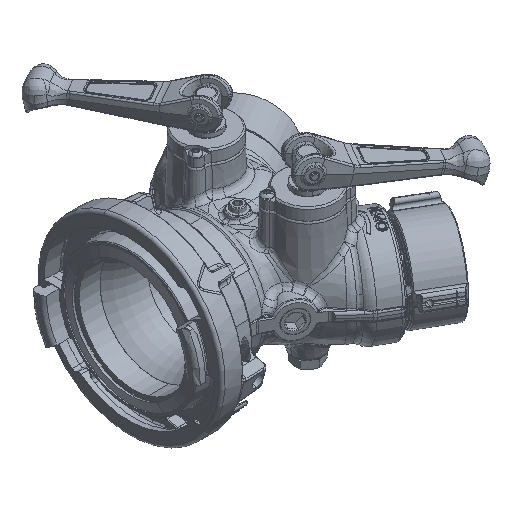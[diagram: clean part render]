
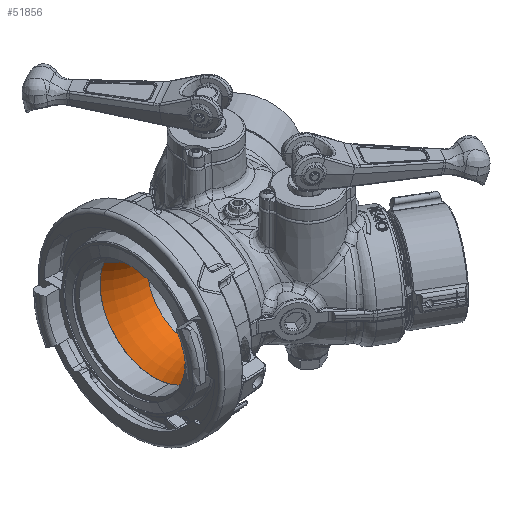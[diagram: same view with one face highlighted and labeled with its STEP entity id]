
A CAD part, isometric view. The second image highlights one B-rep face of the part: STEP entity #51856.
In plain terms, the highlighted toroidal (fillet/blend) face has major radius 106.436 mm and minor radius 61.986 mm.
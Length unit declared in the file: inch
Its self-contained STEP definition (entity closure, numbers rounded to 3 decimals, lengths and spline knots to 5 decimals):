
#133 = AXIS2_PLACEMENT_3D ( 'NONE', #147811, #147806, #147815 ) ;
#3677 = AXIS2_PLACEMENT_3D ( 'NONE', #19785, #19787, #19789 ) ;
#3678 = AXIS2_PLACEMENT_3D ( 'NONE', #19794, #19796, #19798 ) ;
#3679 = AXIS2_PLACEMENT_3D ( 'NONE', #19802, #19804, #19806 ) ;
#3680 = AXIS2_PLACEMENT_3D ( 'NONE', #19811, #19813, #19815 ) ;
#8951 = CIRCLE ( 'NONE', #3678, 1.75 ) ;
#8957 = CIRCLE ( 'NONE', #3677, 2.4404 ) ;
#8958 = CIRCLE ( 'NONE', #3680, 2.4404 ) ;
#8959 = CIRCLE ( 'NONE', #3679, 2.25 ) ;
#19785 = CARTESIAN_POINT ( 'NONE',  ( 0.85, 3.86824, 1.61127 ) ) ;
#19787 = DIRECTION ( 'NONE',  ( 0., 0.385, -0.923 ) ) ;
#19789 = DIRECTION ( 'NONE',  ( 0., 0.923, 0.385 ) ) ;
#19794 = CARTESIAN_POINT ( 'NONE',  ( 0.85, 0., 0. ) ) ;
#19796 = DIRECTION ( 'NONE',  ( 1., 0., 0. ) ) ;
#19798 = DIRECTION ( 'NONE',  ( 0., -0.923, -0.385 ) ) ;
#19802 = CARTESIAN_POINT ( 'NONE',  ( -0.63, 0., 0. ) ) ;
#19804 = DIRECTION ( 'NONE',  ( 1., 0., 0. ) ) ;
#19806 = DIRECTION ( 'NONE',  ( 0., -0.923, -0.385 ) ) ;
#19811 = CARTESIAN_POINT ( 'NONE',  ( 0.85, -3.86824, -1.61127 ) ) ;
#19813 = DIRECTION ( 'NONE',  ( 0., -0.385, 0.923 ) ) ;
#19815 = DIRECTION ( 'NONE',  ( 0., -0.923, -0.385 ) ) ;
#28915 = FACE_OUTER_BOUND ( 'NONE', #137713, .T. ) ;
#28921 = TOROIDAL_SURFACE ( 'NONE', #133, 4.1904, 2.4404 ) ;
#51856 = ADVANCED_FACE ( 'NONE', ( #28915 ), #28921, .T. ) ;
#73068 = EDGE_CURVE ( 'NONE', #151291, #151300, #8957, .T. ) ;
#73070 = EDGE_CURVE ( 'NONE', #151283, #151291, #8951, .T. ) ;
#73072 = EDGE_CURVE ( 'NONE', #151298, #151300, #8959, .T. ) ;
#73074 = EDGE_CURVE ( 'NONE', #151283, #151298, #8958, .T. ) ;
#116710 = CARTESIAN_POINT ( 'NONE',  ( 0.85, -1.61546, -0.6729 ) ) ;
#116712 = CARTESIAN_POINT ( 'NONE',  ( 0.85, 1.61546, 0.6729 ) ) ;
#116716 = CARTESIAN_POINT ( 'NONE',  ( -0.63, -2.07702, -0.86516 ) ) ;
#116719 = CARTESIAN_POINT ( 'NONE',  ( -0.63, 2.07702, 0.86516 ) ) ;
#132991 = ORIENTED_EDGE ( 'NONE', *, *, #73070, .T. ) ;
#132995 = ORIENTED_EDGE ( 'NONE', *, *, #73068, .T. ) ;
#133000 = ORIENTED_EDGE ( 'NONE', *, *, #73072, .F. ) ;
#133005 = ORIENTED_EDGE ( 'NONE', *, *, #73074, .F. ) ;
#137713 = EDGE_LOOP ( 'NONE', ( #132991, #132995, #133000, #133005 ) ) ;
#147806 = DIRECTION ( 'NONE',  ( 1., 0., 0. ) ) ;
#147811 = CARTESIAN_POINT ( 'NONE',  ( 0.85, 0., 0. ) ) ;
#147815 = DIRECTION ( 'NONE',  ( 0., -0.923, -0.385 ) ) ;
#151283 = VERTEX_POINT ( 'NONE', #116710 ) ;
#151291 = VERTEX_POINT ( 'NONE', #116712 ) ;
#151298 = VERTEX_POINT ( 'NONE', #116716 ) ;
#151300 = VERTEX_POINT ( 'NONE', #116719 ) ;
